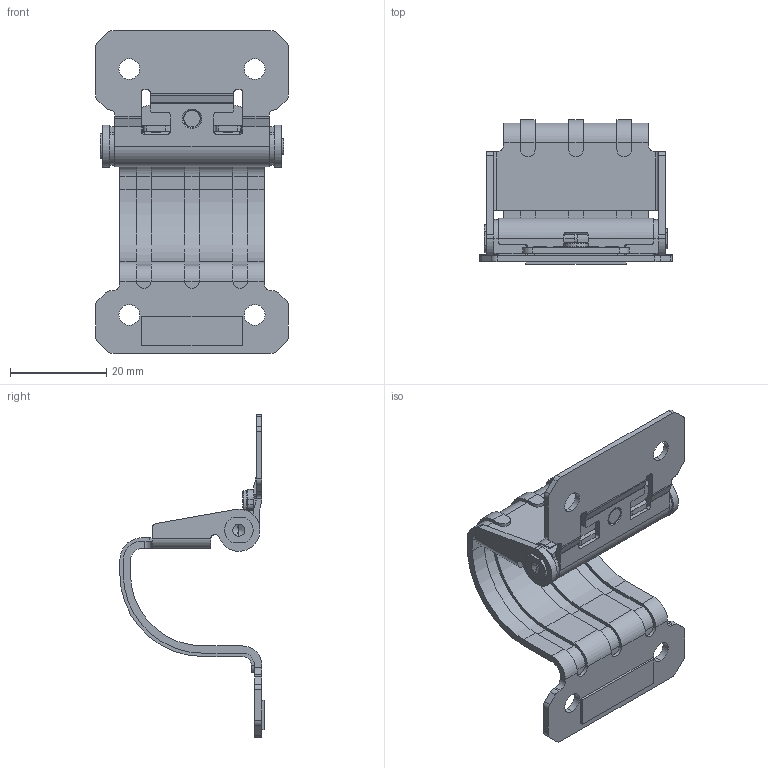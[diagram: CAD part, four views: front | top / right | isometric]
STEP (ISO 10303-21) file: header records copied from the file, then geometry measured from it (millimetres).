
FILE_DESCRIPTION (( 'STEP AP214' ), '1' );
FILE_NAME ('CL-103-1&CL-103-2.STEP', '2022-04-30T03:31:19', ( 'Owner' ), ( '' ), 'SwSTEP 2.0', 'SolidWorks 2019', '' );
FILE_SCHEMA (( 'AUTOMOTIVE_DESIGN' ));
Length unit declared in the file: millimetre
Products named in the file (1): CL-103-1&CL-103-2
Bounding box: 40 x 29.95 x 67 mm (x, y, z)
Volume: 7212.1 mm3; surface area: 9722.7 mm2
Topology: 2 solids, 4 shells, 405 faces, 1159 edges, 752 vertices
Faces by surface type: cylinder 189, plane 184, bspline 22, cone 10
Entity records: 13807 total; most frequent: CARTESIAN_POINT 2946, ORIENTED_EDGE 2306, DIRECTION 2305, EDGE_CURVE 1153, AXIS2_PLACEMENT_3D 804, VERTEX_POINT 752, LINE 697, VECTOR 697
